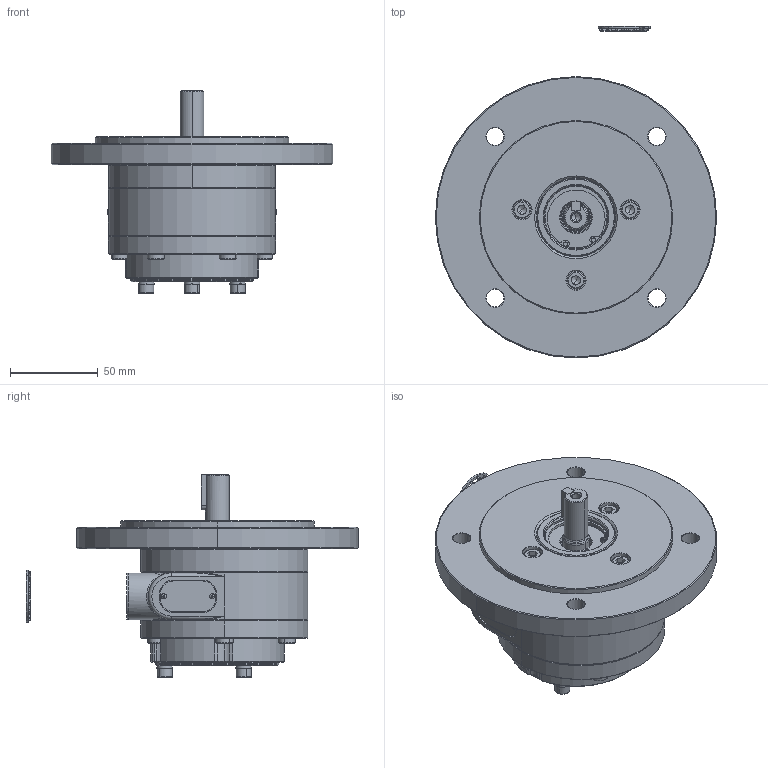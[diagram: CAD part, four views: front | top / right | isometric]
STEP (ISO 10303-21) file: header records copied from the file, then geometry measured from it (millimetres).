
FILE_DESCRIPTION (( 'STEP AP214' ), '1' );
FILE_NAME ('2VMD-SGI (22-04-26).STEP', '2026-04-22T09:04:09', ( '' ), ( '' ), 'SwSTEP 2.0', 'SolidWorks 2017', '' );
FILE_SCHEMA (( 'AUTOMOTIVE_DESIGN' ));
Length unit declared in the file: millimetre
Products named in the file (2): 2VMD-SGI (22-04-26)
Bounding box: 160 x 188.8 x 115.2 mm (x, y, z)
Volume: 476654.6 mm3; surface area: 148652.8 mm2
Topology: 34 solids, 35 shells, 1176 faces, 2882 edges, 1763 vertices
Faces by surface type: plane 467, cylinder 347, cone 255, torus 83, bspline 24
Entity records: 51423 total; most frequent: CARTESIAN_POINT 8602, DIRECTION 6411, ORIENTED_EDGE 5918, EDGE_CURVE 2959, AXIS2_PLACEMENT_3D 2466, VERTEX_POINT 1845, LINE 1479, VECTOR 1479
